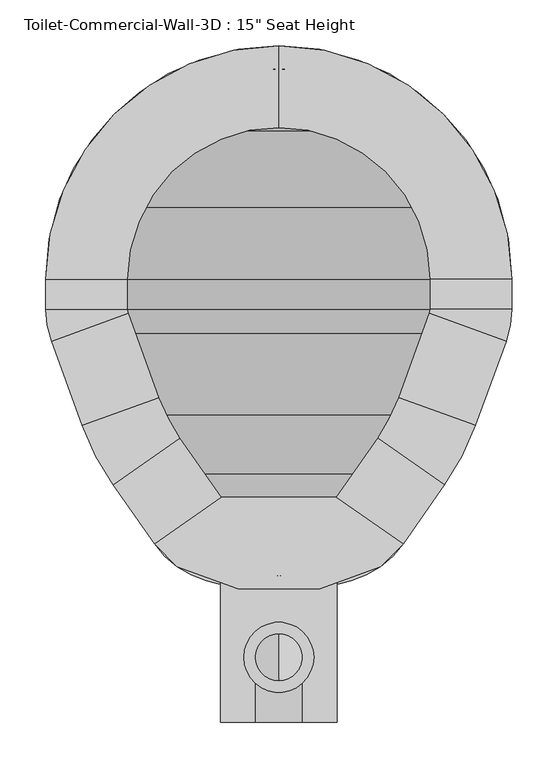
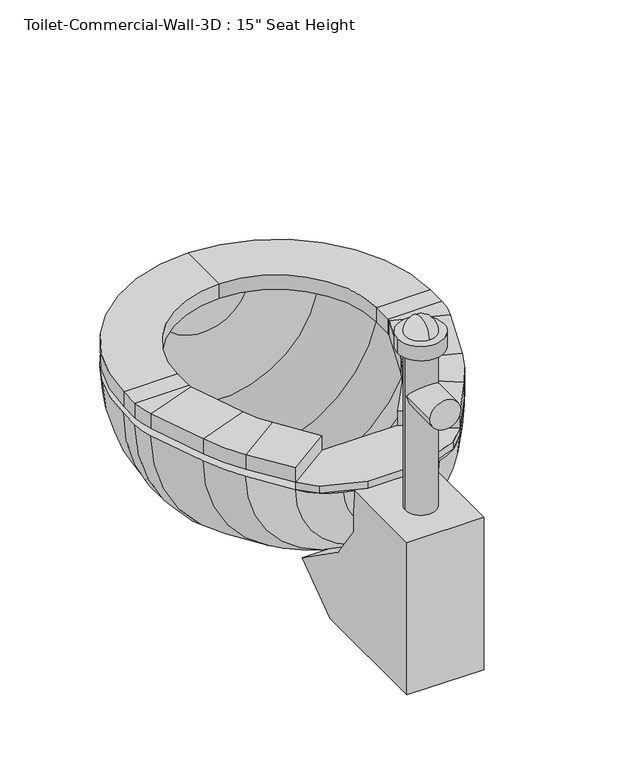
"""IFC4 building model written with IfcOpenShell, lengths in millimetres: flow terminal geometry."""

from ifc_helpers import new_model, si_unit, point, frame, frame_2d, origin, place, context, project, spatial, polyline, circle_curve, ellipse_curve, trimmed, segment, composite_curve, outline, extrude, source, transform, mapped, element, save
from ifc_brep_helpers import plane_surface, cylinder_surface, revolved_surface, advanced_brep


def flow_terminal_8df085c3(model_context):
    return source(origin(), model_context, "Body", "SolidModel", [
        extrude(outline(polyline([(305.2037941, 342.9), (305.2037941, 269.296452), (348.9103185, 206.8770663), (452.9426282, 134.0328588), (372.4454017, 76.2), (152.4, 76.2), (152.4, 342.9), (305.2037941, 342.9)])), frame((341.4031538, 0.0, 0.0), z_axis=(1.0, 0.0, 0.0), x_axis=(0.0, 1.0, 0.0)), (0.0, 0.0, 1.0), 127.0),
        extrude(outline(composite_curve([segment(trimmed(circle_curve(frame_2d((404.9031538, 222.9352737)), 25.4), [point((379.5031538, 222.9352737))], [point((430.3031538, 222.9352737))], False, "CARTESIAN"), True, "CONTINUOUS"), segment(trimmed(circle_curve(frame_2d((404.9031538, 222.9352737)), 25.4), [point((430.3031538, 222.9352737))], [point((379.5031538, 222.9352737))], False, "CARTESIAN"), True, "CONTINUOUS")], self_intersect=False)), frame((0.0, 0.0, 342.9), z_axis=(0.0, 0.0, 1.0), x_axis=(1.0, 0.0, 0.0)), (0.0, 0.0, 1.0), 279.4),
        extrude(outline(composite_curve([segment(trimmed(circle_curve(frame_2d((544.2113641, 404.9031538)), 25.4), [point((544.2113641, 379.5031538))], [point((544.2113641, 430.3031538))], False, "CARTESIAN"), True, "CONTINUOUS"), segment(trimmed(circle_curve(frame_2d((544.2113641, 404.9031538)), 25.4), [point((544.2113641, 430.3031538))], [point((544.2113641, 379.5031538))], False, "CARTESIAN"), True, "CONTINUOUS")], self_intersect=False)), frame((0.0, 152.4, 0.0), z_axis=(0.0, 1.0, 0.0), x_axis=(0.0, 0.0, 1.0)), (0.0, 0.0, 1.0), 70.64375),
        extrude(outline(composite_curve([segment(trimmed(circle_curve(frame_2d((404.9031538, 222.9352737)), 38.1), [point((366.8031538, 222.9352737))], [point((443.0031538, 222.9352737))], False, "CARTESIAN"), True, "CONTINUOUS"), segment(trimmed(circle_curve(frame_2d((404.9031538, 222.9352737)), 38.1), [point((443.0031538, 222.9352737))], [point((366.8031538, 222.9352737))], False, "CARTESIAN"), True, "CONTINUOUS")], self_intersect=False)), frame((0.0, 0.0, 622.3), z_axis=(0.0, 0.0, 1.0), x_axis=(1.0, 0.0, 0.0)), (0.0, 0.0, 1.0), 25.4),
        advanced_brep(
        [(404.9031538, 197.3176912, 647.7), (404.9031538, 248.5528563, 647.7), (404.9031538, 222.9352737, 673.3175826), (404.9031538, 222.9352737, 647.7)],
        [
            (0, 1, circle_curve(frame((404.9031538, 222.9352737, 647.7), z_axis=(0.0, 0.0, 1.0), x_axis=(0.0, 1.0, 0.0)), 25.6175826)),
            (1, 2, circle_curve(frame((404.9031538, 222.9352737, 647.7), z_axis=(1.0, 0.0, 0.0), x_axis=(0.0, -1.0, 0.0)), 25.6175826)),
            (2, 0, circle_curve(frame((404.9031538, 222.9352737, 647.7), z_axis=(1.0, 0.0, 0.0), x_axis=(0.0, 1.0, 0.0)), 25.6175826)),
            (1, 0, circle_curve(frame((404.9031538, 222.9352737, 647.7), z_axis=(0.0, 0.0, 1.0), x_axis=(0.0, 1.0, 0.0)), 25.6175826)),
            (3, 1),
            (0, 3),
        ],
        [
            revolved_surface(trimmed(ellipse_curve(frame((404.9031538, 222.9352737, 647.7), z_axis=(-1.0, 0.0, 0.0), x_axis=(0.0, -1.0, 0.0)), 25.6175826, 25.6175826), [point((404.9031538, 222.9352737, 673.3175826))], [point((404.9031538, 248.5528563, 647.7))], True, "CARTESIAN"), (404.9031538, 222.9352737, 712.3277273), (0.0, 0.0, -1.0)),
            plane_surface(frame((404.9031538, 222.9352737, 647.7), z_axis=(0.0, 0.0, -1.0), x_axis=(0.0, 1.0, 0.0))),
        ],
        [
            (0, [[1, 2, 3]]),
            (0, [[4, -3, -2]]),
            (1, [[5, -1, 6]]),
            (1, [[-6, -4, -5]]),
        ],
    ),
        advanced_brep(
        [(491.7762702, 873.6819257, 342.9), (404.9031538, 889.0, 342.9), (404.9031538, 863.6, 342.9), (483.0889586, 849.8137331, 342.9), (566.547764, 796.6446102, 342.9), (619.7168869, 713.1858048, 342.9), (633.5031538, 635.0, 342.9), (633.5031538, 602.1148212, 342.9), (628.9077315, 576.0528863, 342.9), (596.6355667, 487.3858422, 342.9), (562.9565296, 422.6890139, 342.9), (525.0728964, 368.5855786, 342.9), (468.1430637, 328.7228806, 342.9), (404.9031538, 311.7777978, 342.9), (404.9031538, 285.4817829, 342.9), (483.6469009, 306.5811063, 342.9), (540.5767337, 346.4438043, 342.9), (585.6810159, 410.8593951, 342.9), (619.360053, 475.5562234, 342.9), (652.7759241, 567.3655747, 342.9), (658.9031538, 602.1148212, 342.9), (658.9031538, 635.0, 342.9), (643.5850795, 721.8731164, 342.9), (584.5082762, 814.6051224, 342.9), (318.0300374, 873.6819257, 342.9), (225.2980314, 814.6051224, 342.9), (166.2212281, 721.8731164, 342.9), (150.9031538, 635.0, 342.9), (150.9031538, 602.1148212, 342.9), (157.0303835, 567.3655747, 342.9), (190.4462546, 475.5562234, 342.9), (224.1252917, 410.8593951, 342.9), (269.229574, 346.4438043, 342.9), (326.1594067, 306.5811063, 342.9), (341.663244, 328.7228806, 342.9), (284.7334112, 368.5855786, 342.9), (246.849778, 422.6890139, 342.9), (213.1707409, 487.3858422, 342.9), (180.8985761, 576.0528863, 342.9), (176.3031538, 602.1148212, 342.9), (176.3031538, 635.0, 342.9), (190.0894207, 713.1858048, 342.9), (243.2585436, 796.6446102, 342.9), (326.7173491, 849.8137331, 342.9)],
        [
            (0, 1, circle_curve(frame((404.9031538, 635.0, 342.9), z_axis=(0.0, 0.0, 1.0), x_axis=(1.0, 0.0, 0.0)), 254.0)),
            (1, 2),
            (2, 3, circle_curve(frame((404.9031538, 635.0, 342.9), z_axis=(0.0, 0.0, -1.0), x_axis=(1.0, 0.0, 0.0)), 228.6)),
            (3, 4, circle_curve(frame((404.9031538, 635.0, 342.9), z_axis=(0.0, 0.0, -1.0), x_axis=(1.0, 0.0, 0.0)), 228.6)),
            (4, 5, circle_curve(frame((404.9031538, 635.0, 342.9), z_axis=(0.0, 0.0, -1.0), x_axis=(1.0, 0.0, 0.0)), 228.6)),
            (5, 6, circle_curve(frame((404.9031538, 635.0, 342.9), z_axis=(0.0, 0.0, -1.0), x_axis=(1.0, 0.0, 0.0)), 228.6)),
            (6, 7),
            (7, 8, circle_curve(frame((557.3031538, 602.1148212, 342.9), z_axis=(0.0, 0.0, -1.0), x_axis=(1.0, 0.0, 0.0)), 76.2)),
            (8, 9),
            (9, 10, circle_curve(frame((334.0854485, 582.9462703, 342.9), z_axis=(0.0, 0.0, -1.0), x_axis=(1.0, 0.0, 0.0)), 279.4)),
            (10, 11),
            (11, 12, circle_curve(frame((441.8470487, 426.8609446, 342.9), z_axis=(0.0, 0.0, -1.0), x_axis=(1.0, 0.0, 0.0)), 101.6)),
            (12, 13),
            (13, 14),
            (14, 15),
            (15, 16, circle_curve(frame((457.350886, 404.7191703, 342.9), z_axis=(0.0, 0.0, 1.0), x_axis=(1.0, 0.0, 0.0)), 101.6)),
            (16, 17),
            (17, 18, circle_curve(frame((356.8099347, 571.1166514, 342.9), z_axis=(0.0, 0.0, 1.0), x_axis=(1.0, 0.0, 0.0)), 279.4)),
            (18, 19),
            (19, 20, circle_curve(frame((557.3031538, 602.1148212, 342.9), z_axis=(0.0, 0.0, 1.0), x_axis=(1.0, 0.0, 0.0)), 101.6)),
            (20, 21),
            (21, 22, circle_curve(frame((404.9031538, 635.0, 342.9), z_axis=(0.0, 0.0, 1.0), x_axis=(1.0, 0.0, 0.0)), 254.0)),
            (22, 23, circle_curve(frame((404.9031538, 635.0, 342.9), z_axis=(0.0, 0.0, 1.0), x_axis=(1.0, 0.0, 0.0)), 254.0)),
            (23, 0, circle_curve(frame((404.9031538, 635.0, 342.9), z_axis=(0.0, 0.0, 1.0), x_axis=(1.0, 0.0, 0.0)), 254.0)),
            (24, 25, circle_curve(frame((404.9031538, 635.0, 342.9), z_axis=(0.0, 0.0, 1.0), x_axis=(-1.0, 0.0, 0.0)), 254.0)),
            (25, 26, circle_curve(frame((404.9031538, 635.0, 342.9), z_axis=(0.0, 0.0, 1.0), x_axis=(-1.0, 0.0, 0.0)), 254.0)),
            (26, 27, circle_curve(frame((404.9031538, 635.0, 342.9), z_axis=(0.0, 0.0, 1.0), x_axis=(-1.0, 0.0, 0.0)), 254.0)),
            (27, 28),
            (28, 29, circle_curve(frame((252.5031538, 602.1148212, 342.9), z_axis=(0.0, 0.0, 1.0), x_axis=(-1.0, 0.0, 0.0)), 101.6)),
            (29, 30),
            (30, 31, circle_curve(frame((452.9963729, 571.1166514, 342.9), z_axis=(0.0, 0.0, 1.0), x_axis=(-1.0, 0.0, 0.0)), 279.4)),
            (31, 32),
            (32, 33, circle_curve(frame((352.4554217, 404.7191703, 342.9), z_axis=(0.0, 0.0, 1.0), x_axis=(-1.0, 0.0, 0.0)), 101.6)),
            (33, 14),
            (13, 34),
            (34, 35, circle_curve(frame((367.9592589, 426.8609446, 342.9), z_axis=(0.0, 0.0, -1.0), x_axis=(-1.0, 0.0, 0.0)), 101.6)),
            (35, 36),
            (36, 37, circle_curve(frame((475.7208592, 582.9462703, 342.9), z_axis=(0.0, 0.0, -1.0), x_axis=(-1.0, 0.0, 0.0)), 279.4)),
            (37, 38),
            (38, 39, circle_curve(frame((252.5031538, 602.1148212, 342.9), z_axis=(0.0, 0.0, -1.0), x_axis=(-1.0, 0.0, 0.0)), 76.2)),
            (39, 40),
            (40, 41, circle_curve(frame((404.9031538, 635.0, 342.9), z_axis=(0.0, 0.0, -1.0), x_axis=(-1.0, 0.0, 0.0)), 228.6)),
            (41, 42, circle_curve(frame((404.9031538, 635.0, 342.9), z_axis=(0.0, 0.0, -1.0), x_axis=(-1.0, 0.0, 0.0)), 228.6)),
            (42, 43, circle_curve(frame((404.9031538, 635.0, 342.9), z_axis=(0.0, 0.0, -1.0), x_axis=(-1.0, 0.0, 0.0)), 228.6)),
            (43, 2, circle_curve(frame((404.9031538, 635.0, 342.9), z_axis=(0.0, 0.0, -1.0), x_axis=(-1.0, 0.0, 0.0)), 228.6)),
            (1, 24, circle_curve(frame((404.9031538, 635.0, 342.9), z_axis=(0.0, 0.0, 1.0), x_axis=(-1.0, 0.0, 0.0)), 254.0)),
            (0, 24, circle_curve(frame((404.9031538, 873.6819257, 342.9), z_axis=(0.0, 1.0, 0.0), x_axis=(1.0, 0.0, 0.0)), 86.8731164)),
            (43, 3, circle_curve(frame((404.9031538, 849.8137331, 342.9), z_axis=(0.0, -1.0, 0.0), x_axis=(1.0, 0.0, 0.0)), 78.1858048)),
            (42, 4, circle_curve(frame((404.9031538, 796.6446102, 342.9), z_axis=(0.0, -1.0, 0.0), x_axis=(1.0, 0.0, 0.0)), 161.6446102)),
            (41, 5, circle_curve(frame((404.9031538, 713.1858048, 342.9), z_axis=(0.0, -1.0, 0.0), x_axis=(1.0, 0.0, 0.0)), 214.8137331)),
            (40, 6, circle_curve(frame((404.9031538, 635.0, 342.9), z_axis=(0.0, -1.0, 0.0), x_axis=(1.0, 0.0, 0.0)), 228.6)),
            (39, 7, circle_curve(frame((404.9031538, 602.1148212, 342.9), z_axis=(0.0, -1.0, 0.0), x_axis=(1.0, 0.0, 0.0)), 228.6)),
            (38, 8, circle_curve(frame((404.9031538, 576.0528863, 342.9), z_axis=(0.0, -1.0, 0.0), x_axis=(1.0, 0.0, 0.0)), 224.0045777)),
            (37, 9, circle_curve(frame((404.9031538, 487.3858422, 342.9), z_axis=(0.0, -1.0, 0.0), x_axis=(1.0, 0.0, 0.0)), 191.7324129)),
            (36, 10, circle_curve(frame((404.9031538, 422.6890139, 342.9), z_axis=(0.0, -1.0, 0.0), x_axis=(1.0, 0.0, 0.0)), 158.0533758)),
            (35, 11, circle_curve(frame((404.9031538, 368.5855786, 342.9), z_axis=(0.0, -1.0, 0.0), x_axis=(1.0, 0.0, 0.0)), 120.1697426)),
            (34, 12, circle_curve(frame((404.9031538, 328.7228806, 342.9), z_axis=(0.0, -1.0, 0.0), x_axis=(1.0, 0.0, 0.0)), 63.2399099)),
            (33, 15, circle_curve(frame((404.9031538, 306.5811063, 342.9), z_axis=(0.0, -1.0, 0.0), x_axis=(1.0, 0.0, 0.0)), 78.7437471)),
            (32, 16, circle_curve(frame((404.9031538, 346.4438043, 342.9), z_axis=(0.0, -1.0, 0.0), x_axis=(1.0, 0.0, 0.0)), 135.6735798)),
            (31, 17, circle_curve(frame((404.9031538, 410.8593951, 342.9), z_axis=(0.0, -1.0, 0.0), x_axis=(1.0, 0.0, 0.0)), 180.7778621)),
            (30, 18, circle_curve(frame((404.9031538, 475.5562234, 342.9), z_axis=(0.0, -1.0, 0.0), x_axis=(1.0, 0.0, 0.0)), 214.4568992)),
            (29, 19, circle_curve(frame((404.9031538, 567.3655747, 342.9), z_axis=(0.0, -1.0, 0.0), x_axis=(1.0, 0.0, 0.0)), 247.8727703)),
            (28, 20, circle_curve(frame((404.9031538, 602.1148212, 342.9), z_axis=(0.0, -1.0, 0.0), x_axis=(1.0, 0.0, 0.0)), 254.0)),
            (27, 21, circle_curve(frame((404.9031538, 635.0, 342.9), z_axis=(0.0, -1.0, 0.0), x_axis=(1.0, 0.0, 0.0)), 254.0)),
            (26, 22, circle_curve(frame((404.9031538, 721.8731164, 342.9), z_axis=(0.0, -1.0, 0.0), x_axis=(1.0, 0.0, 0.0)), 238.6819257)),
            (25, 23, circle_curve(frame((404.9031538, 814.6051224, 342.9), z_axis=(0.0, -1.0, 0.0), x_axis=(1.0, 0.0, 0.0)), 179.6051224)),
        ],
        [
            plane_surface(frame((404.9031538, 994.2102448, 342.9), z_axis=(0.0, 0.0, 1.0), x_axis=(1.0, 0.0, 0.0))),
            plane_surface(frame((404.9031538, 994.2102448, 342.9), z_axis=(0.0, 0.0, 1.0), x_axis=(-1.0, 0.0, 0.0))),
            revolved_surface(trimmed(ellipse_curve(frame((404.9031538, 635.0, 342.9), z_axis=(0.0, 0.0, 1.0), x_axis=(1.0, 0.0, 0.0)), 254.0, 254.0), [point((491.7762702, 873.6819257, 342.9))], [point((404.9031538, 889.0, 342.9))], True, "CARTESIAN"), (404.9031538, 994.2102448, 342.9), (0.0, 1.0, 0.0)),
            revolved_surface(trimmed(ellipse_curve(frame((404.9031538, 635.0, 342.9), z_axis=(0.0, 0.0, -1.0), x_axis=(1.0, 0.0, 0.0)), 228.6, 228.6), [point((404.9031538, 863.6, 342.9))], [point((483.0889586, 849.8137331, 342.9))], True, "CARTESIAN"), (404.9031538, 994.2102448, 342.9), (0.0, 1.0, 0.0)),
            revolved_surface(trimmed(ellipse_curve(frame((404.9031538, 635.0, 342.9), z_axis=(0.0, 0.0, -1.0), x_axis=(1.0, 0.0, 0.0)), 228.6, 228.6), [point((483.0889586, 849.8137331, 342.9))], [point((566.547764, 796.6446102, 342.9))], True, "CARTESIAN"), (404.9031538, 994.2102448, 342.9), (0.0, 1.0, 0.0)),
            revolved_surface(trimmed(ellipse_curve(frame((404.9031538, 635.0, 342.9), z_axis=(0.0, 0.0, -1.0), x_axis=(1.0, 0.0, 0.0)), 228.6, 228.6), [point((566.547764, 796.6446102, 342.9))], [point((619.7168869, 713.1858048, 342.9))], True, "CARTESIAN"), (404.9031538, 994.2102448, 342.9), (0.0, 1.0, 0.0)),
            revolved_surface(trimmed(ellipse_curve(frame((404.9031538, 635.0, 342.9), z_axis=(0.0, 0.0, -1.0), x_axis=(1.0, 0.0, 0.0)), 228.6, 228.6), [point((619.7168869, 713.1858048, 342.9))], [point((633.5031538, 635.0, 342.9))], True, "CARTESIAN"), (404.9031538, 994.2102448, 342.9), (0.0, 1.0, 0.0)),
            revolved_surface(polyline([(633.5031538, 635.0, 342.9), (633.5031538, 602.1148212, 342.9)]), (404.9031538, 994.2102448, 342.9), (0.0, 1.0, 0.0)),
            revolved_surface(trimmed(ellipse_curve(frame((557.3031538, 602.1148212, 342.9), z_axis=(0.0, 0.0, -1.0), x_axis=(1.0, 0.0, 0.0)), 76.2, 76.2), [point((633.5031538, 602.1148212, 342.9))], [point((628.9077315, 576.0528863, 342.9))], True, "CARTESIAN"), (404.9031538, 994.2102448, 342.9), (0.0, 1.0, 0.0)),
            revolved_surface(polyline([(628.9077315, 576.0528863, 342.9), (596.6355667, 487.3858422, 342.9)]), (404.9031538, 994.2102448, 342.9), (0.0, 1.0, 0.0)),
            revolved_surface(trimmed(ellipse_curve(frame((334.0854485, 582.9462703, 342.9), z_axis=(0.0, 0.0, -1.0), x_axis=(1.0, 0.0, 0.0)), 279.4, 279.4), [point((596.6355667, 487.3858422, 342.9))], [point((562.9565296, 422.6890139, 342.9))], True, "CARTESIAN"), (404.9031538, 994.2102448, 342.9), (0.0, 1.0, 0.0)),
            revolved_surface(polyline([(562.9565296, 422.6890139, 342.9), (525.0728964, 368.5855786, 342.9)]), (404.9031538, 994.2102448, 342.9), (0.0, 1.0, 0.0)),
            revolved_surface(trimmed(ellipse_curve(frame((441.8470487, 426.8609446, 342.9), z_axis=(0.0, 0.0, -1.0), x_axis=(1.0, 0.0, 0.0)), 101.6, 101.6), [point((525.0728964, 368.5855786, 342.9))], [point((468.1430637, 328.7228806, 342.9))], True, "CARTESIAN"), (404.9031538, 994.2102448, 342.9), (0.0, 1.0, 0.0)),
            revolved_surface(polyline([(468.1430637, 328.7228806, 342.9), (404.9031538, 311.7777978, 342.9)]), (404.9031538, 994.2102448, 342.9), (0.0, 1.0, 0.0)),
            revolved_surface(polyline([(404.9031538, 285.4817829, 342.9), (483.6469009, 306.5811063, 342.9)]), (404.9031538, 994.2102448, 342.9), (0.0, 1.0, 0.0)),
            revolved_surface(trimmed(ellipse_curve(frame((457.350886, 404.7191703, 342.9), z_axis=(0.0, 0.0, 1.0), x_axis=(1.0, 0.0, 0.0)), 101.6, 101.6), [point((483.6469009, 306.5811063, 342.9))], [point((540.5767337, 346.4438043, 342.9))], True, "CARTESIAN"), (404.9031538, 994.2102448, 342.9), (0.0, 1.0, 0.0)),
            revolved_surface(polyline([(540.5767337, 346.4438043, 342.9), (585.6810159, 410.8593951, 342.9)]), (404.9031538, 994.2102448, 342.9), (0.0, 1.0, 0.0)),
            revolved_surface(trimmed(ellipse_curve(frame((356.8099347, 571.1166514, 342.9), z_axis=(0.0, 0.0, 1.0), x_axis=(1.0, 0.0, 0.0)), 279.4, 279.4), [point((585.6810159, 410.8593951, 342.9))], [point((619.360053, 475.5562234, 342.9))], True, "CARTESIAN"), (404.9031538, 994.2102448, 342.9), (0.0, 1.0, 0.0)),
            revolved_surface(polyline([(619.360053, 475.5562234, 342.9), (652.7759241, 567.3655747, 342.9)]), (404.9031538, 994.2102448, 342.9), (0.0, 1.0, 0.0)),
            revolved_surface(trimmed(ellipse_curve(frame((557.3031538, 602.1148212, 342.9), z_axis=(0.0, 0.0, 1.0), x_axis=(1.0, 0.0, 0.0)), 101.6, 101.6), [point((652.7759241, 567.3655747, 342.9))], [point((658.9031538, 602.1148212, 342.9))], True, "CARTESIAN"), (404.9031538, 994.2102448, 342.9), (0.0, 1.0, 0.0)),
            cylinder_surface(frame((404.9031538, 994.2102448, 342.9), z_axis=(0.0, 1.0, 0.0), x_axis=(1.0, 0.0, 0.0)), 254.0),
            revolved_surface(trimmed(ellipse_curve(frame((404.9031538, 635.0, 342.9), z_axis=(0.0, 0.0, 1.0), x_axis=(1.0, 0.0, 0.0)), 254.0, 254.0), [point((658.9031538, 635.0, 342.9))], [point((643.5850795, 721.8731164, 342.9))], True, "CARTESIAN"), (404.9031538, 994.2102448, 342.9), (0.0, 1.0, 0.0)),
            revolved_surface(trimmed(ellipse_curve(frame((404.9031538, 635.0, 342.9), z_axis=(0.0, 0.0, 1.0), x_axis=(1.0, 0.0, 0.0)), 254.0, 254.0), [point((643.5850795, 721.8731164, 342.9))], [point((584.5082762, 814.6051224, 342.9))], True, "CARTESIAN"), (404.9031538, 994.2102448, 342.9), (0.0, 1.0, 0.0)),
            revolved_surface(trimmed(ellipse_curve(frame((404.9031538, 635.0, 342.9), z_axis=(0.0, 0.0, 1.0), x_axis=(1.0, 0.0, 0.0)), 254.0, 254.0), [point((584.5082762, 814.6051224, 342.9))], [point((491.7762702, 873.6819257, 342.9))], True, "CARTESIAN"), (404.9031538, 994.2102448, 342.9), (0.0, 1.0, 0.0)),
        ],
        [
            (0, [[1, 2, 3, 4, 5, 6, 7, 8, 9, 10, 11, 12, 13, 14, 15, 16, 17, 18, 19, 20, 21, 22, 23, 24]]),
            (1, [[25, 26, 27, 28, 29, 30, 31, 32, 33, 34, -14, 35, 36, 37, 38, 39, 40, 41, 42, 43, 44, 45, -2, 46]]),
            (2, [[-1, 47, -46]]),
            (3, [[48, -3, -45]]),
            (4, [[49, -4, -48, -44]]),
            (5, [[50, -5, -49, -43]]),
            (6, [[51, -6, -50, -42]]),
            (7, [[52, -7, -51, -41]]),
            (8, [[53, -8, -52, -40]]),
            (9, [[54, -9, -53, -39]]),
            (10, [[55, -10, -54, -38]]),
            (11, [[56, -11, -55, -37]]),
            (12, [[57, -12, -56, -36]]),
            (13, [[-13, -57, -35]]),
            (14, [[58, -15, -34]]),
            (15, [[59, -16, -58, -33]]),
            (16, [[60, -17, -59, -32]]),
            (17, [[61, -18, -60, -31]]),
            (18, [[62, -19, -61, -30]]),
            (19, [[63, -20, -62, -29]]),
            (20, [[64, -21, -63, -28]]),
            (21, [[65, -22, -64, -27]]),
            (22, [[66, -23, -65, -26]]),
            (23, [[-47, -24, -66, -25]]),
        ],
    ),
        advanced_brep(
        [(467.7541169, 397.4347495, 355.6), (540.5767337, 346.4438043, 355.6), (540.5767337, 346.4438043, 381.0), (467.7541169, 397.4347495, 381.0), (512.8583992, 461.8503403, 355.6), (585.6810159, 410.8593951, 355.6), (585.6810159, 410.8593951, 381.0), (512.8583992, 461.8503403, 381.0), (619.360053, 475.5562234, 355.6), (535.821379, 505.9618141, 355.6), (619.360053, 475.5562234, 381.0), (535.821379, 505.9618141, 381.0), (569.2372501, 597.7711654, 355.6), (652.7759241, 567.3655747, 355.6), (652.7759241, 567.3655747, 381.0), (569.2372501, 597.7711654, 381.0), (658.9031538, 602.1148212, 355.6), (570.0031538, 602.1148212, 355.6), (658.9031538, 602.1148212, 381.0), (570.0031538, 602.1148212, 381.0), (570.0031538, 635.0, 355.6), (658.9031538, 635.0, 355.6), (658.9031538, 635.0, 381.0), (570.0031538, 635.0, 381.0), (404.9031538, 889.0, 355.6), (404.9031538, 800.1, 355.6), (404.9031538, 889.0, 381.0), (404.9031538, 800.1, 381.0), (150.9031538, 635.0, 355.6), (239.8031538, 635.0, 355.6), (150.9031538, 635.0, 381.0), (239.8031538, 635.0, 381.0), (239.8031538, 602.1148212, 355.6), (150.9031538, 602.1148212, 355.6), (150.9031538, 602.1148212, 381.0), (239.8031538, 602.1148212, 381.0), (157.0303835, 567.3655747, 355.6), (240.5690575, 597.7711654, 355.6), (157.0303835, 567.3655747, 381.0), (240.5690575, 597.7711654, 381.0), (273.9849286, 505.9618141, 355.6), (190.4462546, 475.5562234, 355.6), (190.4462546, 475.5562234, 381.0), (273.9849286, 505.9618141, 381.0), (224.1252917, 410.8593951, 355.6), (296.9479084, 461.8503403, 355.6), (224.1252917, 410.8593951, 381.0), (296.9479084, 461.8503403, 381.0), (342.0521907, 397.4347495, 355.6), (342.0521907, 397.4347495, 381.0), (269.229574, 346.4438043, 381.0), (269.229574, 346.4438043, 355.6)],
        [
            (0, 1),
            (1, 2),
            (2, 3),
            (3, 0),
            (0, 4),
            (4, 5),
            (5, 1),
            (5, 6),
            (6, 2),
            (6, 7),
            (7, 3),
            (7, 4),
            (8, 5, circle_curve(frame((356.8099347, 571.1166514, 355.6), z_axis=(0.0, 0.0, -1.0), x_axis=(0.81915204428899, -0.5735764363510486, 0.0)), 279.4)),
            (4, 9, circle_curve(frame((356.8099347, 571.1166514, 355.6), z_axis=(0.0, 0.0, 1.0), x_axis=(0.81915204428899, -0.5735764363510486, 0.0)), 190.5)),
            (9, 8),
            (10, 6, circle_curve(frame((356.8099347, 571.1166514, 381.0), z_axis=(0.0, 0.0, -1.0), x_axis=(0.81915204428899, -0.5735764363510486, 0.0)), 279.4)),
            (8, 10),
            (11, 7, circle_curve(frame((356.8099347, 571.1166514, 381.0), z_axis=(0.0, 0.0, -1.0), x_axis=(0.81915204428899, -0.5735764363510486, 0.0)), 190.5)),
            (10, 11),
            (11, 9),
            (9, 12),
            (12, 13),
            (13, 8),
            (13, 14),
            (14, 10),
            (14, 15),
            (15, 11),
            (15, 12),
            (16, 13, circle_curve(frame((557.3031538, 602.1148212, 355.6), z_axis=(0.0, 0.0, -1.0), x_axis=(0.939692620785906, -0.34202014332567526, 0.0)), 101.6)),
            (12, 17, circle_curve(frame((557.3031538, 602.1148212, 355.6), z_axis=(0.0, 0.0, 1.0), x_axis=(0.939692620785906, -0.34202014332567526, 0.0)), 12.7)),
            (17, 16),
            (18, 14, circle_curve(frame((557.3031538, 602.1148212, 381.0), z_axis=(0.0, 0.0, -1.0), x_axis=(0.939692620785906, -0.34202014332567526, 0.0)), 101.6)),
            (16, 18),
            (19, 15, circle_curve(frame((557.3031538, 602.1148212, 381.0), z_axis=(0.0, 0.0, -1.0), x_axis=(0.939692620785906, -0.34202014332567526, 0.0)), 12.7)),
            (18, 19),
            (19, 17),
            (17, 20),
            (20, 21),
            (21, 16),
            (21, 22),
            (22, 18),
            (22, 23),
            (23, 19),
            (23, 20),
            (24, 21, circle_curve(frame((404.9031538, 635.0, 355.6), z_axis=(0.0, 0.0, -1.0), x_axis=(1.0, 0.0, 0.0)), 254.0)),
            (20, 25, circle_curve(frame((404.9031538, 635.0, 355.6), z_axis=(0.0, 0.0, 1.0), x_axis=(1.0, 0.0, 0.0)), 165.1)),
            (25, 24),
            (26, 22, circle_curve(frame((404.9031538, 635.0, 381.0), z_axis=(0.0, 0.0, -1.0), x_axis=(1.0, 0.0, 0.0)), 254.0)),
            (24, 26),
            (27, 23, circle_curve(frame((404.9031538, 635.0, 381.0), z_axis=(0.0, 0.0, -1.0), x_axis=(1.0, 0.0, 0.0)), 165.1)),
            (26, 27),
            (27, 25),
            (28, 24, circle_curve(frame((404.9031538, 635.0, 355.6), z_axis=(0.0, 0.0, -1.0), x_axis=(0.0, 1.0, 0.0)), 254.0)),
            (25, 29, circle_curve(frame((404.9031538, 635.0, 355.6), z_axis=(0.0, 0.0, 1.0), x_axis=(0.0, 1.0, 0.0)), 165.1)),
            (29, 28),
            (30, 26, circle_curve(frame((404.9031538, 635.0, 381.0), z_axis=(0.0, 0.0, -1.0), x_axis=(0.0, 1.0, 0.0)), 254.0)),
            (28, 30),
            (31, 27, circle_curve(frame((404.9031538, 635.0, 381.0), z_axis=(0.0, 0.0, -1.0), x_axis=(0.0, 1.0, 0.0)), 165.1)),
            (30, 31),
            (31, 29),
            (29, 32),
            (32, 33),
            (33, 28),
            (33, 34),
            (34, 30),
            (34, 35),
            (35, 31),
            (35, 32),
            (36, 33, circle_curve(frame((252.5031538, 602.1148212, 355.6), z_axis=(0.0, 0.0, -1.0), x_axis=(-1.0, 0.0, 0.0)), 101.6)),
            (32, 37, circle_curve(frame((252.5031538, 602.1148212, 355.6), z_axis=(0.0, 0.0, 1.0), x_axis=(-1.0, 0.0, 0.0)), 12.7)),
            (37, 36),
            (38, 34, circle_curve(frame((252.5031538, 602.1148212, 381.0), z_axis=(0.0, 0.0, -1.0), x_axis=(-1.0, 0.0, 0.0)), 101.6)),
            (36, 38),
            (39, 35, circle_curve(frame((252.5031538, 602.1148212, 381.0), z_axis=(0.0, 0.0, -1.0), x_axis=(-1.0, 0.0, 0.0)), 12.7)),
            (38, 39),
            (39, 37),
            (37, 40),
            (40, 41),
            (41, 36),
            (41, 42),
            (42, 38),
            (42, 43),
            (43, 39),
            (43, 40),
            (44, 41, circle_curve(frame((452.9963729, 571.1166514, 355.6), z_axis=(0.0, 0.0, -1.0), x_axis=(-0.9396926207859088, -0.34202014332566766, 0.0)), 279.4)),
            (40, 45, circle_curve(frame((452.9963729, 571.1166514, 355.6), z_axis=(0.0, 0.0, 1.0), x_axis=(-0.9396926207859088, -0.34202014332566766, 0.0)), 190.5)),
            (45, 44),
            (46, 42, circle_curve(frame((452.9963729, 571.1166514, 381.0), z_axis=(0.0, 0.0, -1.0), x_axis=(-0.9396926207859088, -0.34202014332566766, 0.0)), 279.4)),
            (44, 46),
            (47, 43, circle_curve(frame((452.9963729, 571.1166514, 381.0), z_axis=(0.0, 0.0, -1.0), x_axis=(-0.9396926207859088, -0.34202014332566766, 0.0)), 190.5)),
            (46, 47),
            (47, 45),
            (48, 49),
            (49, 50),
            (50, 51),
            (51, 48),
            (45, 48),
            (51, 44),
            (50, 46),
            (49, 47),
        ],
        [
            plane_surface(frame((540.5767337, 346.4438043, 439.6203184), z_axis=(-0.5735764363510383, -0.8191520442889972, 0.0), x_axis=(0.8191520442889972, -0.5735764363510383, 0.0))),
            plane_surface(frame((467.7541169, 397.4347495, 355.6), z_axis=(0.0, 0.0, -1.0000000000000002), x_axis=(0.5735764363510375, 0.8191520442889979, 0.0))),
            plane_surface(frame((540.5767337, 346.4438043, 355.6), z_axis=(0.8191520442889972, -0.5735764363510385, 0.0), x_axis=(0.5735764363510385, 0.8191520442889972, 0.0))),
            plane_surface(frame((540.5767337, 346.4438043, 381.0), z_axis=(0.0, 0.0, 1.0000000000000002), x_axis=(0.5735764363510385, 0.8191520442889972, 0.0))),
            plane_surface(frame((467.7541169, 397.4347495, 381.0), z_axis=(-0.8191520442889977, 0.5735764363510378, 0.0), x_axis=(0.5735764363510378, 0.8191520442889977, 0.0))),
            plane_surface(frame((356.8099347, 571.1166514, 355.6), z_axis=(0.0, 0.0, -1.0), x_axis=(0.81915204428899, -0.5735764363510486, 0.0))),
            cylinder_surface(frame((356.8099347, 571.1166514, 342.9), z_axis=(0.0, 0.0, 1.0), x_axis=(0.81915204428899, -0.5735764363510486, 0.0)), 279.4),
            plane_surface(frame((356.8099347, 571.1166514, 381.0), z_axis=(0.0, 0.0, 1.0), x_axis=(0.81915204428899, -0.5735764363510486, 0.0))),
            revolved_surface(polyline([(512.8583991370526, 461.8503402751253, 381.0), (512.8583991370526, 461.8503402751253, 355.6)]), (356.8099347, 571.1166514, 342.9), (0.0, 0.0, 1.0)),
            plane_surface(frame((535.821379, 505.9618141, 355.6), z_axis=(0.0, 0.0, -1.0), x_axis=(0.34202014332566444, 0.93969262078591, 0.0))),
            plane_surface(frame((619.360053, 475.5562234, 355.6), z_axis=(0.9396926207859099, -0.34202014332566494, 0.0), x_axis=(0.34202014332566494, 0.9396926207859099, 0.0))),
            plane_surface(frame((619.360053, 475.5562234, 381.0), z_axis=(0.0, 0.0, 1.0000000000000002), x_axis=(0.34202014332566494, 0.9396926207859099, 0.0))),
            plane_surface(frame((535.821379, 505.9618141, 381.0), z_axis=(-0.93969262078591, 0.34202014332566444, 0.0), x_axis=(0.34202014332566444, 0.93969262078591, 0.0))),
            plane_surface(frame((557.3031538, 602.1148212, 355.6), z_axis=(0.0, 0.0, -1.0), x_axis=(0.939692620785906, -0.34202014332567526, 0.0))),
            cylinder_surface(frame((557.3031538, 602.1148212, 342.9), z_axis=(0.0, 0.0, 1.0), x_axis=(0.939692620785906, -0.34202014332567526, 0.0)), 101.6),
            plane_surface(frame((557.3031538, 602.1148212, 381.0), z_axis=(0.0, 0.0, 1.0), x_axis=(0.939692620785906, -0.34202014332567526, 0.0))),
            revolved_surface(polyline([(569.237250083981, 597.7711653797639, 381.0), (569.237250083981, 597.7711653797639, 355.6)]), (557.3031538, 602.1148212, 342.9), (0.0, 0.0, 1.0)),
            plane_surface(frame((570.0031538, 602.1148212, 355.6), z_axis=(0.0, 0.0, -1.0), x_axis=(0.0, 1.0, 0.0))),
            plane_surface(frame((658.9031538, 602.1148212, 355.6), z_axis=(1.0, 0.0, 0.0), x_axis=(0.0, 1.0, 0.0))),
            plane_surface(frame((658.9031538, 602.1148212, 381.0), z_axis=(0.0, 0.0, 1.0), x_axis=(0.0, 1.0, 0.0))),
            plane_surface(frame((570.0031538, 602.1148212, 381.0), z_axis=(-1.0, 0.0, 0.0), x_axis=(0.0, 1.0, 0.0))),
            plane_surface(frame((404.9031538, 635.0, 355.6), z_axis=(0.0, 0.0, -1.0), x_axis=(1.0, 0.0, 0.0))),
            cylinder_surface(frame((404.9031538, 635.0, 342.9), z_axis=(0.0, 0.0, 1.0), x_axis=(1.0, 0.0, 0.0)), 254.0),
            plane_surface(frame((404.9031538, 635.0, 381.0), z_axis=(0.0, 0.0, 1.0), x_axis=(1.0, 0.0, 0.0))),
            revolved_surface(polyline([(570.0031538, 635.0, 381.0), (570.0031538, 635.0, 355.6)]), (404.9031538, 635.0, 342.9), (0.0, 0.0, 1.0)),
            plane_surface(frame((404.9031538, 635.0, 355.6), z_axis=(0.0, 0.0, -1.0), x_axis=(0.0, 1.0, 0.0))),
            cylinder_surface(frame((404.9031538, 635.0, 342.9), z_axis=(0.0, 0.0, 1.0), x_axis=(0.0, 1.0, 0.0)), 254.0),
            plane_surface(frame((404.9031538, 635.0, 381.0), z_axis=(0.0, 0.0, 1.0), x_axis=(0.0, 1.0, 0.0))),
            revolved_surface(polyline([(404.9031538, 800.1, 381.0), (404.9031538, 800.1, 355.6)]), (404.9031538, 635.0, 342.9), (0.0, 0.0, 1.0)),
            plane_surface(frame((239.8031538, 635.0, 355.6), z_axis=(0.0, 0.0, -1.0), x_axis=(0.0, -1.0, 0.0))),
            plane_surface(frame((150.9031538, 635.0, 355.6), z_axis=(-1.0, 0.0, 0.0), x_axis=(0.0, -1.0, 0.0))),
            plane_surface(frame((150.9031538, 635.0, 381.0), z_axis=(0.0, 0.0, 1.0), x_axis=(0.0, -1.0, 0.0))),
            plane_surface(frame((239.8031538, 635.0, 381.0), z_axis=(1.0, 0.0, 0.0), x_axis=(0.0, -1.0, 0.0))),
            plane_surface(frame((252.5031538, 602.1148212, 355.6), z_axis=(0.0, 0.0, -1.0), x_axis=(-1.0, 0.0, 0.0))),
            cylinder_surface(frame((252.5031538, 602.1148212, 342.9), z_axis=(0.0, 0.0, 1.0), x_axis=(-1.0, 0.0, 0.0)), 101.6),
            plane_surface(frame((252.5031538, 602.1148212, 381.0), z_axis=(0.0, 0.0, 1.0), x_axis=(-1.0, 0.0, 0.0))),
            revolved_surface(polyline([(239.80315380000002, 602.1148212, 381.0), (239.80315380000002, 602.1148212, 355.6)]), (252.5031538, 602.1148212, 342.9), (0.0, 0.0, 1.0)),
            plane_surface(frame((240.5690575, 597.7711654, 355.6), z_axis=(0.0, 0.0, -1.0000000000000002), x_axis=(0.3420201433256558, -0.9396926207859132, 0.0))),
            plane_surface(frame((157.0303835, 567.3655747, 355.6), z_axis=(-0.9396926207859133, -0.3420201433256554, 0.0), x_axis=(0.3420201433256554, -0.9396926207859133, 0.0))),
            plane_surface(frame((157.0303835, 567.3655747, 381.0), z_axis=(0.0, 0.0, 1.0), x_axis=(0.34202014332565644, -0.9396926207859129, 0.0))),
            plane_surface(frame((240.5690575, 597.7711654, 381.0), z_axis=(0.9396926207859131, 0.342020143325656, 0.0), x_axis=(0.342020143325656, -0.9396926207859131, 0.0))),
            plane_surface(frame((452.9963729, 571.1166514, 355.6), z_axis=(0.0, 0.0, -1.0), x_axis=(-0.9396926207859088, -0.34202014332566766, 0.0))),
            cylinder_surface(frame((452.9963729, 571.1166514, 342.9), z_axis=(0.0, 0.0, 1.0), x_axis=(-0.9396926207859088, -0.34202014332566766, 0.0)), 279.4),
            plane_surface(frame((452.9963729, 571.1166514, 381.0), z_axis=(0.0, 0.0, 1.0), x_axis=(-0.9396926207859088, -0.34202014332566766, 0.0))),
            revolved_surface(polyline([(273.98492864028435, 505.96181409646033, 381.0), (273.98492864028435, 505.96181409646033, 355.6)]), (452.9963729, 571.1166514, 342.9), (0.0, 0.0, 1.0)),
            plane_surface(frame((269.229574, 346.4438043, 246.1796816), z_axis=(0.5735764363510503, -0.8191520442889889, 0.0), x_axis=(0.8191520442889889, 0.5735764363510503, 0.0))),
            plane_surface(frame((296.9479084, 461.8503403, 355.6), z_axis=(0.0, 0.0, -1.0000000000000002), x_axis=(0.5735764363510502, -0.819152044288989, 0.0))),
            plane_surface(frame((224.1252917, 410.8593951, 355.6), z_axis=(-0.8191520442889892, -0.5735764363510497, 0.0), x_axis=(0.5735764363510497, -0.8191520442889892, 0.0))),
            plane_surface(frame((224.1252917, 410.8593951, 381.0), z_axis=(0.0, 0.0, 1.0000000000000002), x_axis=(0.5735764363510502, -0.819152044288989, 0.0))),
            plane_surface(frame((296.9479084, 461.8503403, 381.0), z_axis=(0.819152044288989, 0.5735764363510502, 0.0), x_axis=(0.5735764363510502, -0.819152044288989, 0.0))),
        ],
        [
            (0, [[1, 2, 3, 4]]),
            (1, [[-1, 5, 6, 7]]),
            (2, [[-2, -7, 8, 9]]),
            (3, [[-3, -9, 10, 11]]),
            (4, [[-4, -11, 12, -5]]),
            (5, [[13, -6, 14, 15]]),
            (6, [[16, -8, -13, 17]]),
            (7, [[18, -10, -16, 19]]),
            (8, [[-14, -12, -18, 20]]),
            (9, [[-15, 21, 22, 23]]),
            (10, [[-17, -23, 24, 25]]),
            (11, [[-19, -25, 26, 27]]),
            (12, [[-20, -27, 28, -21]]),
            (13, [[29, -22, 30, 31]]),
            (14, [[32, -24, -29, 33]]),
            (15, [[34, -26, -32, 35]]),
            (16, [[-30, -28, -34, 36]]),
            (17, [[-31, 37, 38, 39]]),
            (18, [[-33, -39, 40, 41]]),
            (19, [[-35, -41, 42, 43]]),
            (20, [[-36, -43, 44, -37]]),
            (21, [[45, -38, 46, 47]]),
            (22, [[48, -40, -45, 49]]),
            (23, [[50, -42, -48, 51]]),
            (24, [[-46, -44, -50, 52]]),
            (25, [[53, -47, 54, 55]]),
            (26, [[56, -49, -53, 57]]),
            (27, [[58, -51, -56, 59]]),
            (28, [[-54, -52, -58, 60]]),
            (29, [[-55, 61, 62, 63]]),
            (30, [[-57, -63, 64, 65]]),
            (31, [[-59, -65, 66, 67]]),
            (32, [[-60, -67, 68, -61]]),
            (33, [[69, -62, 70, 71]]),
            (34, [[72, -64, -69, 73]]),
            (35, [[74, -66, -72, 75]]),
            (36, [[-70, -68, -74, 76]]),
            (37, [[-71, 77, 78, 79]]),
            (38, [[-73, -79, 80, 81]]),
            (39, [[-75, -81, 82, 83]]),
            (40, [[-76, -83, 84, -77]]),
            (41, [[85, -78, 86, 87]]),
            (42, [[88, -80, -85, 89]]),
            (43, [[90, -82, -88, 91]]),
            (44, [[-86, -84, -90, 92]]),
            (45, [[93, 94, 95, 96]]),
            (46, [[-87, 97, -96, 98]]),
            (47, [[-89, -98, -95, 99]]),
            (48, [[-91, -99, -94, 100]]),
            (49, [[-92, -100, -93, -97]]),
        ],
    ),
        extrude(outline(polyline([(467.7541169, 397.4347495), (540.5767337, 346.4438043), (515.6262519, 321.4933226), (449.563909, 297.4485961), (360.2423986, 297.4485961), (294.1800557, 321.4933226), (269.229574, 346.4438043), (342.0521907, 397.4347495), (467.7541169, 397.4347495)])), frame((0.0, 0.0, 342.9), z_axis=(0.0, 0.0, 1.0), x_axis=(1.0, 0.0, 0.0)), (0.0, 0.0, 1.0), 12.7),
    ])


if __name__ == "__main__":
    model = new_model("IFC4")
    model_context = context("Model", 3, world=origin())
    ifc_project = project(units=[si_unit("LENGTHUNIT", "METRE", prefix="MILLI")], contexts=[model_context])
    site = spatial("IfcSite", under=ifc_project)
    building = spatial("IfcBuilding", under=site)
    placement = place(None, origin())
    flow_terminal_shape = flow_terminal_8df085c3(model_context)
    element("IfcFlowTerminal", 1, ObjectType="Toilet-Commercial-Wall-3D : 15\" Seat Height", at=placement, inside=building, context=model_context, shape_type="MappedRepresentation", body=[
        mapped(flow_terminal_shape, transform((0.0, 0.0, 0.0), x_axis=(1.0, 0.0, 0.0), y_axis=(0.0, 1.0, 0.0), z_axis=(0.0, 0.0, 1.0))),
    ])
    save(model, "model.ifc")
